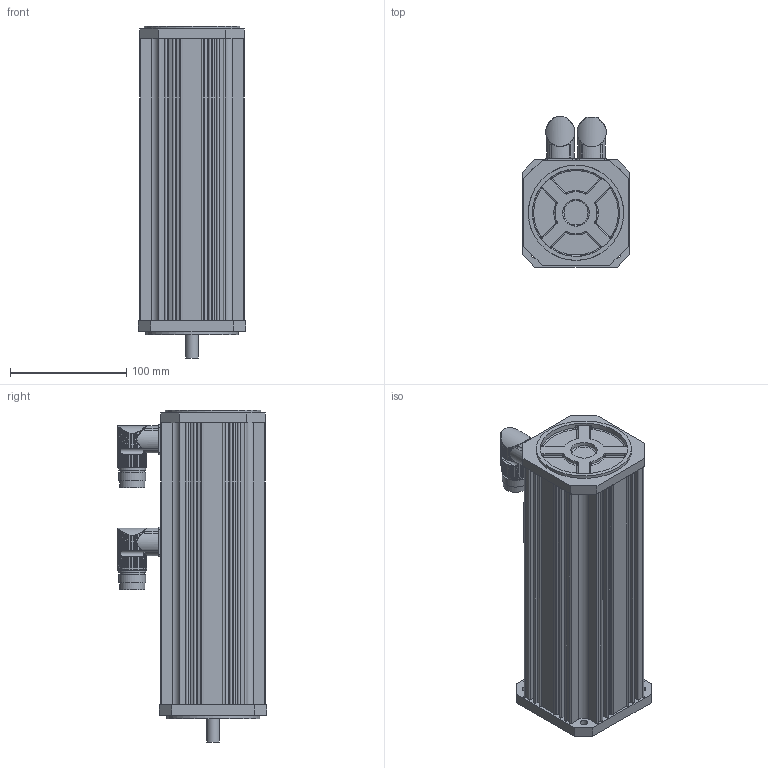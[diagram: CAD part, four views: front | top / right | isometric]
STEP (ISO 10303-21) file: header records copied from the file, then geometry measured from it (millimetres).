
FILE_DESCRIPTION(/* description */ (''),/* implementation_level */ '2;1');
FILE_NAME(/* name */ 'KSA348_MC_Ix',/* time_stamp */ '2009-02-26T13:25:39+01:00',/* author */ (''),/* organization */ (''),/* preprocessor_version */ 'ST-DEVELOPER v8',/* originating_system */ 'UNIGRAPHICS SOLUTIONS - UNIGRAPHICS 18.0',/* authorisation */ '');
FILE_SCHEMA (('AUTOMOTIVE_DESIGN { 1 2 10303 214 0 1 1 1 }'));
Length unit declared in the file: millimetre
Products named in the file (4): Winkelflanschdose_0; Lagersch3BS_0; Lagersch3AS_0; KSA324_MC_I27_0
Assembly tree (4 placements, depth 2):
  KSA324_MC_I27_0
    Lagersch3AS_0
    Lagersch3BS_0
    Winkelflanschdose_0  x2
Bounding box: 92.6 x 128.79 x 285.5 mm (x, y, z)
Volume: 603859.4 mm3; surface area: 231714.1 mm2
Topology: 5 solids, 5 shells, 558 faces, 1545 edges, 1022 vertices
Faces by surface type: cylinder 376, plane 129, bspline 32, torus 12, cone 9
Full cylindrical faces by diameter (mm): 6.5 x4, 11 x1, 12 x1, 16 x2, 20 x2, 21 x2, 21.5 x2, 23 x4, 45 x1, 73 x1, 80 x2, 81 x2
Entity records: 14028 total; most frequent: CARTESIAN_POINT 4047, ORIENTED_EDGE 2076, DIRECTION 1934, EDGE_CURVE 1038, AXIS2_PLACEMENT_3D 755, VERTEX_POINT 698, EDGE_LOOP 450, LINE 424
